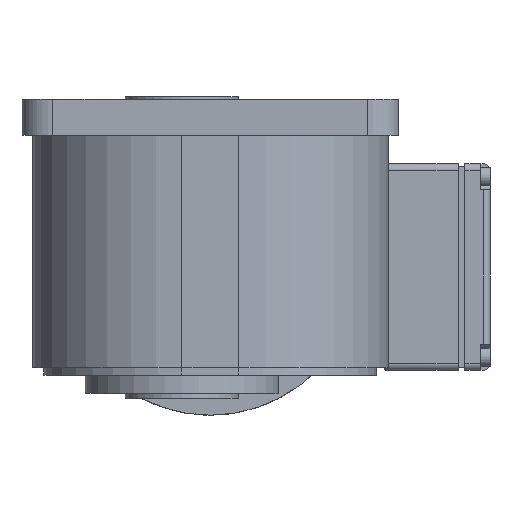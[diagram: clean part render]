
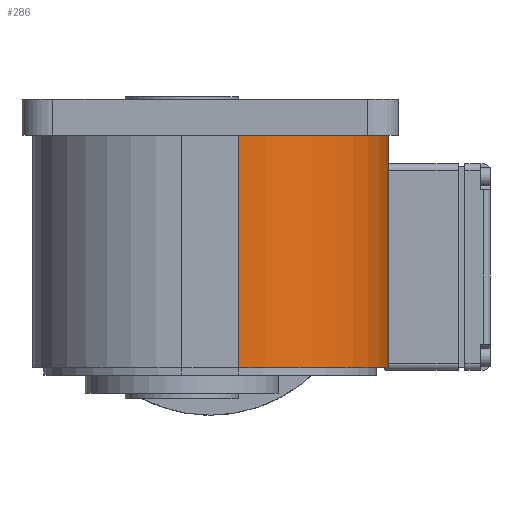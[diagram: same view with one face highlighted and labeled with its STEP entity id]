
A CAD part, left-side view. The second image highlights one B-rep face of the part: STEP entity #286.
In plain terms, the highlighted cylindrical face has radius 58 mm (diameter 116 mm), a partial arc.
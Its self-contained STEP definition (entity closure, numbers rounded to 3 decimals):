
#286 = ADVANCED_FACE( '', ( #938 ), #939, .T. );
#938 = FACE_OUTER_BOUND( '', #2243, .T. );
#939 = CYLINDRICAL_SURFACE( '', #2244, 58. );
#2243 = EDGE_LOOP( '', ( #3886, #3887, #3888, #3889 ) );
#2244 = AXIS2_PLACEMENT_3D( '', #3890, #3891, #3892 );
#3886 = ORIENTED_EDGE( '', *, *, #8580, .F. );
#3887 = ORIENTED_EDGE( '', *, *, #8581, .F. );
#3888 = ORIENTED_EDGE( '', *, *, #8559, .T. );
#3889 = ORIENTED_EDGE( '', *, *, #8579, .T. );
#3890 = CARTESIAN_POINT( '', ( -104., -22., 0. ) );
#3891 = DIRECTION( '', ( -1., 0., 0. ) );
#3892 = DIRECTION( '', ( 0., 0., -1. ) );
#8559 = EDGE_CURVE( '', #10225, #10245, #10247, .T. );
#8579 = EDGE_CURVE( '', #10245, #10278, #10280, .T. );
#8580 = EDGE_CURVE( '', #10281, #10278, #10282, .T. );
#8581 = EDGE_CURVE( '', #10225, #10281, #10283, .T. );
#10225 = VERTEX_POINT( '', #12944 );
#10245 = VERTEX_POINT( '', #12971 );
#10247 = CIRCLE( '', #12974, 58. );
#10278 = VERTEX_POINT( '', #13020 );
#10280 = LINE( '', #13023, #13024 );
#10281 = VERTEX_POINT( '', #13025 );
#10282 = CIRCLE( '', #13026, 58. );
#10283 = LINE( '', #13027, #13028 );
#12944 = CARTESIAN_POINT( '', ( -104., -22., 58. ) );
#12971 = CARTESIAN_POINT( '', ( -104., -80., 0. ) );
#12974 = AXIS2_PLACEMENT_3D( '', #16354, #16355, #16356 );
#13020 = CARTESIAN_POINT( '', ( -14., -80., 0. ) );
#13023 = CARTESIAN_POINT( '', ( -104., -80., 0. ) );
#13024 = VECTOR( '', #16382, 1000. );
#13025 = CARTESIAN_POINT( '', ( -14., -22., 58. ) );
#13026 = AXIS2_PLACEMENT_3D( '', #16383, #16384, #16385 );
#13027 = CARTESIAN_POINT( '', ( -104., -22., 58. ) );
#13028 = VECTOR( '', #16386, 1000. );
#16354 = CARTESIAN_POINT( '', ( -104., -22., 0. ) );
#16355 = DIRECTION( '', ( 1., 0., 0. ) );
#16356 = DIRECTION( '', ( 0., 0., -1. ) );
#16382 = DIRECTION( '', ( 1., 0., 0. ) );
#16383 = CARTESIAN_POINT( '', ( -14., -22., 0. ) );
#16384 = DIRECTION( '', ( 1., 0., 0. ) );
#16385 = DIRECTION( '', ( 0., 0., -1. ) );
#16386 = DIRECTION( '', ( 1., 0., 0. ) );
